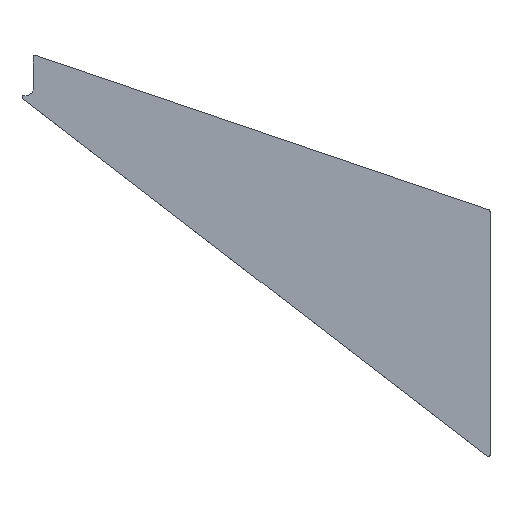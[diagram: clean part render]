
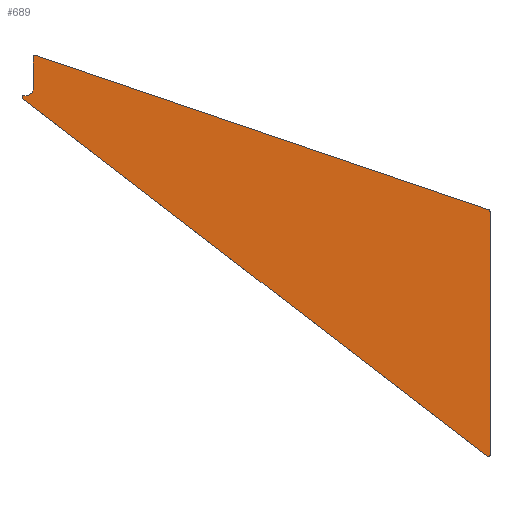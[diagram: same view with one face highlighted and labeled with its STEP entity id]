
A CAD part, top view. The second image highlights one B-rep face of the part: STEP entity #689.
In plain terms, the highlighted planar face has unit normal (0, 0, 1).
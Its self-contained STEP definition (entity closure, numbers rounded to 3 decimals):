
#335=CIRCLE('',#658,12.5);
#337=CIRCLE('',#661,3.);
#338=CIRCLE('',#662,3.);
#339=CIRCLE('',#663,3.);
#340=CIRCLE('',#664,3.);
#358=ORIENTED_EDGE('',*,*,#473,.F.);
#359=ORIENTED_EDGE('',*,*,#477,.F.);
#360=ORIENTED_EDGE('',*,*,#478,.F.);
#361=ORIENTED_EDGE('',*,*,#479,.F.);
#362=ORIENTED_EDGE('',*,*,#480,.T.);
#363=ORIENTED_EDGE('',*,*,#481,.F.);
#364=ORIENTED_EDGE('',*,*,#482,.T.);
#365=ORIENTED_EDGE('',*,*,#483,.T.);
#366=ORIENTED_EDGE('',*,*,#484,.F.);
#367=ORIENTED_EDGE('',*,*,#474,.F.);
#413=VECTOR('',#529,1.);
#415=VECTOR('',#541,1.);
#416=VECTOR('',#544,1.);
#417=VECTOR('',#547,1.);
#418=VECTOR('',#550,1.);
#433=LINE('',#600,#413);
#435=LINE('',#611,#415);
#436=LINE('',#615,#416);
#437=LINE('',#619,#417);
#438=LINE('',#622,#418);
#451=VERTEX_POINT('',#594);
#453=VERTEX_POINT('',#598);
#454=VERTEX_POINT('',#602);
#456=VERTEX_POINT('',#608);
#457=VERTEX_POINT('',#610);
#458=VERTEX_POINT('',#612);
#459=VERTEX_POINT('',#614);
#460=VERTEX_POINT('',#616);
#461=VERTEX_POINT('',#618);
#462=VERTEX_POINT('',#620);
#473=EDGE_CURVE('',#453,#451,#433,.T.);
#474=EDGE_CURVE('',#451,#454,#335,.T.);
#477=EDGE_CURVE('',#456,#453,#337,.T.);
#478=EDGE_CURVE('',#457,#456,#435,.T.);
#479=EDGE_CURVE('',#458,#457,#338,.T.);
#480=EDGE_CURVE('',#458,#459,#436,.T.);
#481=EDGE_CURVE('',#460,#459,#339,.T.);
#482=EDGE_CURVE('',#460,#461,#437,.T.);
#483=EDGE_CURVE('',#461,#462,#340,.T.);
#484=EDGE_CURVE('',#454,#462,#438,.T.);
#502=EDGE_LOOP('',(#358,#359,#360,#361,#362,#363,#364,#365,#366,#367));
#514=FACE_BOUND('',#502,.T.);
#529=DIRECTION('',(4.706,0.,0.));
#532=DIRECTION('',(0.,0.,1.));
#533=DIRECTION('',(12.5,0.,0.));
#537=DIRECTION('',(0.,0.,1.));
#538=DIRECTION('',(0.,-1.,0.));
#539=DIRECTION('',(0.,0.,-1.));
#540=DIRECTION('',(0.,-3.,0.));
#541=DIRECTION('',(-844.206,650.126,0.));
#542=DIRECTION('',(0.,0.,-1.));
#543=DIRECTION('',(0.,-3.,0.));
#544=DIRECTION('',(0.,442.96,0.));
#545=DIRECTION('',(0.,0.,-1.));
#546=DIRECTION('',(0.,-3.,0.));
#547=DIRECTION('',(-824.,280.512,0.));
#548=DIRECTION('',(0.,0.,1.));
#549=DIRECTION('',(0.,3.,0.));
#550=DIRECTION('',(0.,57.847,0.));
#594=CARTESIAN_POINT('',(6937.004,13781.36,40.));
#598=CARTESIAN_POINT('',(6932.298,13781.36,40.));
#600=CARTESIAN_POINT('',(6932.298,13781.36,40.));
#602=CARTESIAN_POINT('',(6949.504,13793.86,40.));
#603=CARTESIAN_POINT('',(6937.004,13793.86,40.));
#607=CARTESIAN_POINT('',(0.,0.,40.));
#608=CARTESIAN_POINT('',(6930.467,13775.983,40.));
#609=CARTESIAN_POINT('',(6932.298,13778.36,40.));
#610=CARTESIAN_POINT('',(7774.673,13125.857,40.));
#611=CARTESIAN_POINT('',(7774.673,13125.857,40.));
#612=CARTESIAN_POINT('',(7779.504,13128.234,40.));
#613=CARTESIAN_POINT('',(7776.504,13128.234,40.));
#614=CARTESIAN_POINT('',(7779.504,13571.194,40.));
#615=CARTESIAN_POINT('',(7779.504,13128.234,40.));
#616=CARTESIAN_POINT('',(7777.47,13574.034,40.));
#617=CARTESIAN_POINT('',(7776.504,13571.194,40.));
#618=CARTESIAN_POINT('',(6953.47,13854.546,40.));
#619=CARTESIAN_POINT('',(7777.47,13574.034,40.));
#620=CARTESIAN_POINT('',(6949.504,13851.706,40.));
#621=CARTESIAN_POINT('',(6952.504,13851.706,40.));
#622=CARTESIAN_POINT('',(6949.504,13793.86,40.));
#658=AXIS2_PLACEMENT_3D('',#603,#532,#533);
#660=AXIS2_PLACEMENT_3D('',#607,#537,#538);
#661=AXIS2_PLACEMENT_3D('',#609,#539,#540);
#662=AXIS2_PLACEMENT_3D('',#613,#542,#543);
#663=AXIS2_PLACEMENT_3D('',#617,#545,#546);
#664=AXIS2_PLACEMENT_3D('',#621,#548,#549);
#681=PLANE('',#660);
#689=ADVANCED_FACE('',(#514),#681,.T.);
